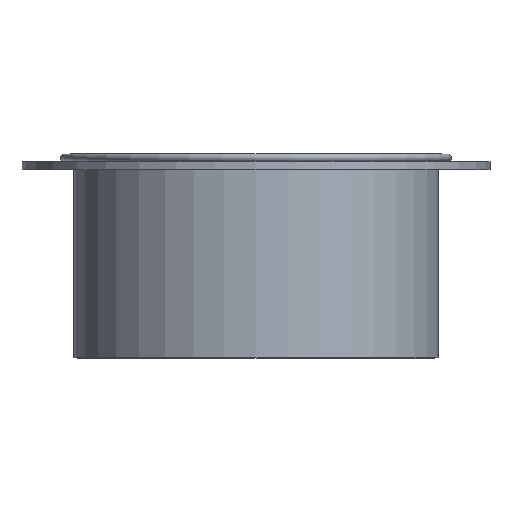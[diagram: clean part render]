
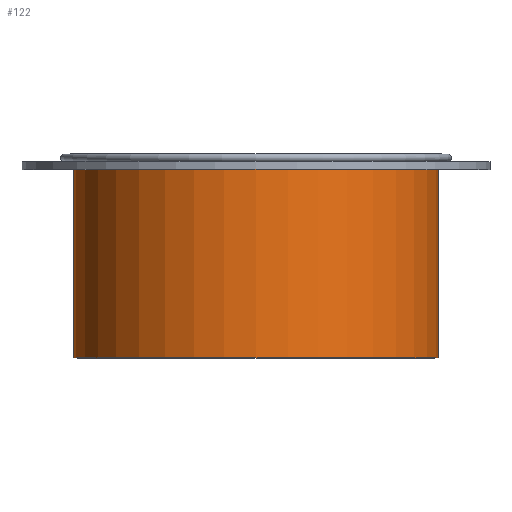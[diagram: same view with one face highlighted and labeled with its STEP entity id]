
A CAD part, top view. The second image highlights one B-rep face of the part: STEP entity #122.
In plain terms, the highlighted cylindrical face has radius 90.8 mm (diameter 181.6 mm), a full revolution.
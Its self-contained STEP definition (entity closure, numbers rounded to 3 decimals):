
#105=CYLINDRICAL_SURFACE('',#443,90.8);
#122=ADVANCED_FACE('',(#161,#162),#105,.T.);
#161=FACE_BOUND('',#223,.T.);
#162=FACE_BOUND('',#224,.T.);
#223=EDGE_LOOP('',(#285));
#224=EDGE_LOOP('',(#286));
#285=ORIENTED_EDGE('',*,*,#374,.F.);
#286=ORIENTED_EDGE('',*,*,#369,.T.);
#338=VERTEX_POINT('',#605);
#343=VERTEX_POINT('',#619);
#369=EDGE_CURVE('',#338,#338,#400,.T.);
#374=EDGE_CURVE('',#343,#343,#405,.T.);
#400=CIRCLE('',#432,90.8);
#405=CIRCLE('',#441,90.8);
#432=AXIS2_PLACEMENT_3D('',#604,#491,#492);
#441=AXIS2_PLACEMENT_3D('',#618,#509,#510);
#443=AXIS2_PLACEMENT_3D('',#621,#513,#514);
#491=DIRECTION('',(0.,1.,0.));
#492=DIRECTION('',(1.,0.,0.));
#509=DIRECTION('',(0.,1.,0.));
#510=DIRECTION('',(1.,0.,0.));
#513=DIRECTION('',(0.,1.,0.));
#514=DIRECTION('',(1.,0.,0.));
#604=CARTESIAN_POINT('',(0.,0.,0.));
#605=CARTESIAN_POINT('',(90.8,0.,0.));
#618=CARTESIAN_POINT('',(0.,99.2,0.));
#619=CARTESIAN_POINT('',(90.8,99.2,0.));
#621=CARTESIAN_POINT('',(0.,-192.076,0.));
